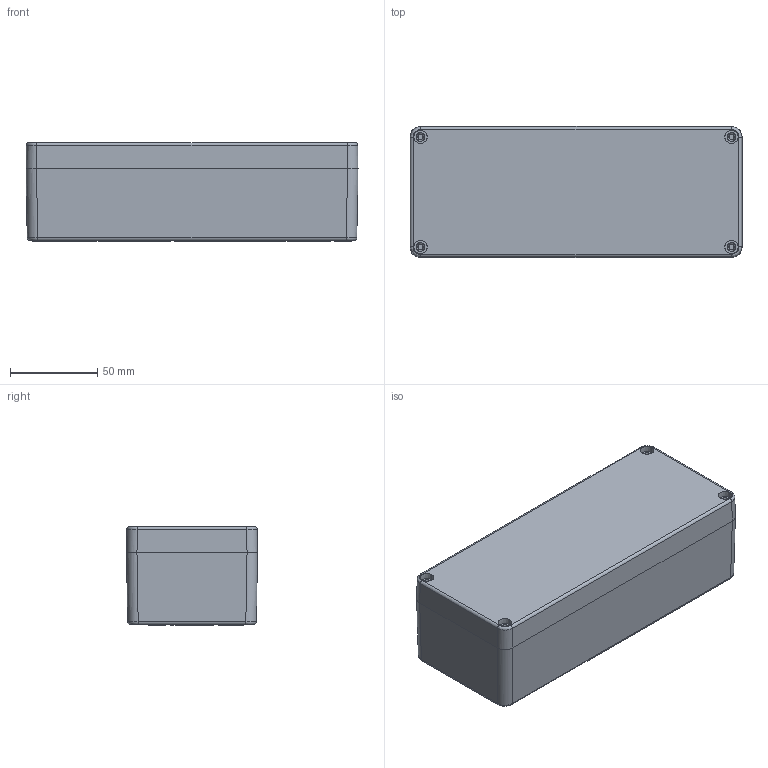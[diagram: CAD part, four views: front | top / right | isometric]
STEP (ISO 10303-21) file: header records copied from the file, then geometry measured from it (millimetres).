
FILE_DESCRIPTION (( 'STEP AP203' ), '1' );
FILE_NAME ('GRP ASSY 1907555.STEP', '2024-08-26T10:27:08', ( '' ), ( '' ), 'SwSTEP 2.0', 'SolidWorks 2018', '' );
FILE_SCHEMA (( 'CONFIG_CONTROL_DESIGN' ));
Length unit declared in the file: millimetre
Products named in the file (5): M4 SS TOP INSERT; GRP LID 1907555; GRP BASE 1907555; M4 BOTTOM INSERT; GRP ASSY 1907555
Assembly tree (8 placements, depth 2):
  GRP ASSY 1907555
    GRP BASE 1907555
    M4 BOTTOM INSERT  x2
    M4 SS TOP INSERT  x4
    GRP LID 1907555
Bounding box: 190 x 75 x 56.5 mm (x, y, z)
Volume: 269841.3 mm3; surface area: 117910.6 mm2
Topology: 8 solids, 8 shells, 1078 faces, 2707 edges, 1703 vertices
Faces by surface type: cylinder 360, plane 355, bspline 185, cone 154, torus 24
Entity records: 32185 total; most frequent: CARTESIAN_POINT 13769, ORIENTED_EDGE 3944, DIRECTION 3356, EDGE_CURVE 1972, VERTEX_POINT 1236, AXIS2_PLACEMENT_3D 1173, LINE 1010, VECTOR 1010
